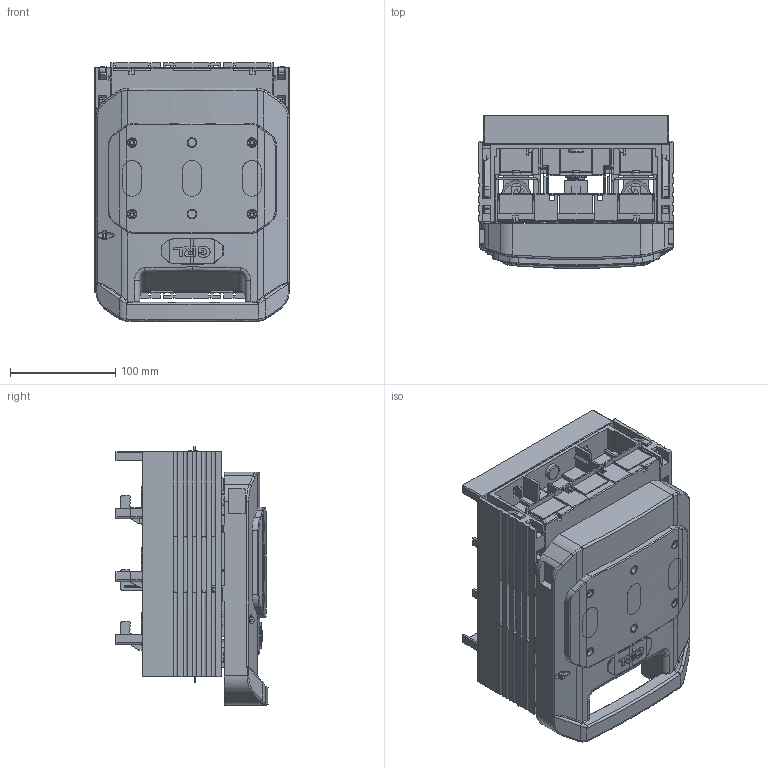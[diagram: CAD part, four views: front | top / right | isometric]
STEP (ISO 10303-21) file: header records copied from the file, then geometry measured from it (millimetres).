
FILE_DESCRIPTION(/* description */ (''),/* implementation_level */ '2;1');
FILE_NAME(/* name */ 'DNH1-250-31 新外观 总装 下端至系统 -带铅封锁-外发',/* time_stamp */ '2025-01-09T09:53:46+08:00',/* author */ (''),/* organization */ (''),/* preprocessor_version */ 'ST-DEVELOPER v19.2',/* originating_system */ 'Rhino 8.2',/* authorisation */ '');
FILE_SCHEMA (('CONFIG_CONTROL_DESIGN'));
Products named in the file (1): Document
Bounding box: 184.7 x 144.58 x 246.01 mm (x, y, z)
Surface area: 530909.6 mm2 (no closed solid volume)
Topology: 0 solids, 87 shells, 1747 faces, 9489 edges, 7589 vertices
Faces by surface type: plane 1055, cylinder 516, bspline 176
Entity records: 110416 total; most frequent: CARTESIAN_POINT 52835, ORIENTED_EDGE 13296, EDGE_CURVE 9485, VERTEX_POINT 7589, B_SPLINE_CURVE_WITH_KNOTS 7552, DIRECTION 5171, AXIS2_PLACEMENT_3D 3371, EDGE_LOOP 1960
